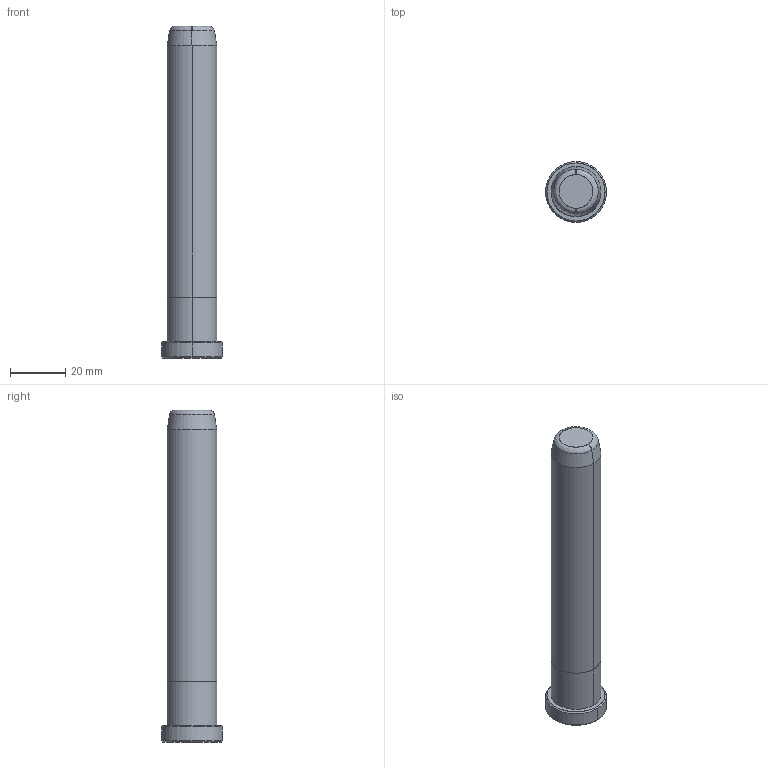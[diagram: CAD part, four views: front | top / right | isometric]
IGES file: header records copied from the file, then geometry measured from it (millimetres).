
Start section: START RECORD GO HERE.
Global section: file name: B82818120.igs; native system: DASSAULT SYSTEMES CATIA V5 R20 - www.3ds.com; preprocessor: CATIA Version 5 Release 20 ; author: Utente; organization: NB04-ASUS; date: 20200419.173723; units: millimetre
Bounding box: 22 x 22 x 120 mm (x, y, z)
Surface area: 7466 mm2 (no closed solid volume)
Topology: 0 solids, 0 shells, 20 faces, 80 edges, 80 vertices
Faces by surface type: revolution 16, plane 4
